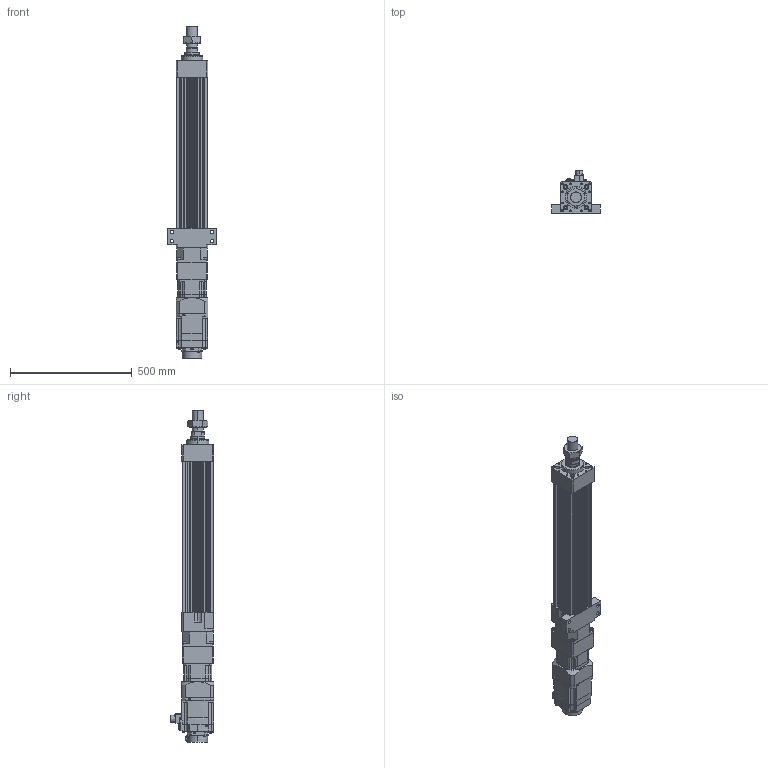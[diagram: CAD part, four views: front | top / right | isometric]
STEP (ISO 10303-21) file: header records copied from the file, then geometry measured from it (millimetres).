
FILE_DESCRIPTION (( 'STEP AP203' ), '1' );
FILE_NAME ('HES130NS(FS)(HS)-S400-W015G00-M-FFC.STEP', '2026-06-10T06:34:44', ( 'tms' ), ( '' ), 'SwSTEP 2.0', 'SolidWorks 2013', '' );
FILE_SCHEMA (( 'CONFIG_CONTROL_DESIGN' ));
Length unit declared in the file: millimetre
Products named in the file (8): AB1151; HES130NS(FS)(HS)-S400-W015G00-M-FFC; HES130-M-ROD-400; HES130-S-G120; HG-SR152B; AB1152; HES130-FFC-400; M45X1.5P
Assembly tree (7 placements, depth 2):
  HES130NS(FS)(HS)-S400-W015G00-M-FFC
    HES130-FFC-400
    HES130-M-ROD-400
    M45X1.5P
    HES130-S-G120
    AB1151
    AB1152
    HG-SR152B
Bounding box: 200 x 177.49 x 1362 mm (x, y, z)
Volume: 10878230.4 mm3; surface area: 1379849.7 mm2
Topology: 5 solids, 12 shells, 1284 faces, 3254 edges, 2103 vertices
Faces by surface type: cylinder 588, plane 584, cone 98, bspline 10, torus 4
Entity records: 40475 total; most frequent: CARTESIAN_POINT 7740, DIRECTION 7007, ORIENTED_EDGE 6432, EDGE_CURVE 3226, AXIS2_PLACEMENT_3D 2591, VERTEX_POINT 2103, VECTOR 1825, LINE 1825
